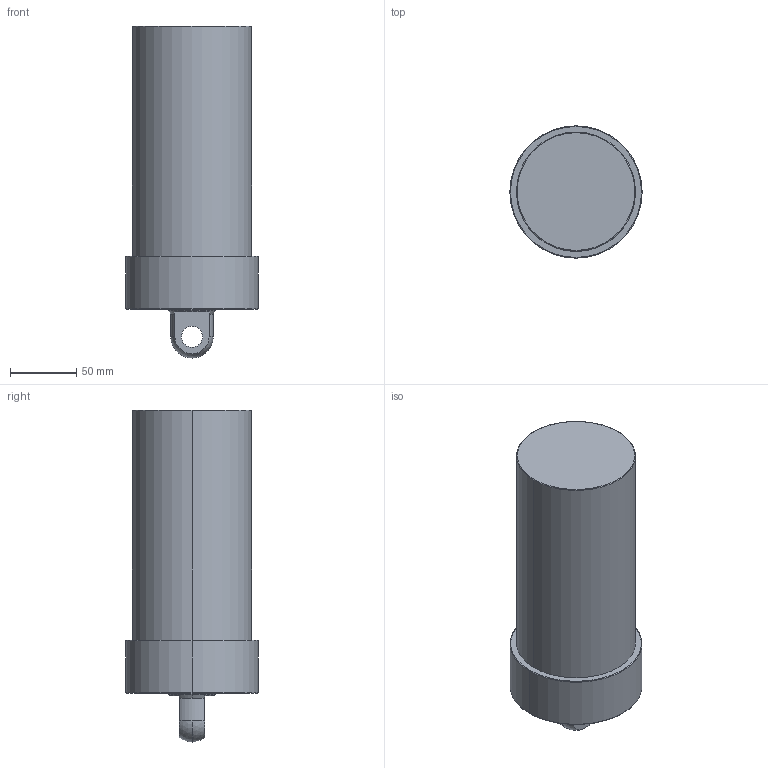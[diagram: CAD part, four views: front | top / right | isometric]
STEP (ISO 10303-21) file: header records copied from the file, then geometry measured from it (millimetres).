
FILE_DESCRIPTION (( 'STEP AP203' ), '1' );
FILE_NAME ('CLLU-090GP-130.STEP', '2020-01-15T01:49:27', ( '' ), ( '' ), 'SwSTEP 2.0', 'SolidWorks 2015', '' );
FILE_SCHEMA (( 'CONFIG_CONTROL_DESIGN' ));
Length unit declared in the file: millimetre
Products named in the file (1): CLLU-090GP-130
Bounding box: 100 x 100 x 251 mm (x, y, z)
Volume: 1430102.3 mm3; surface area: 83652.7 mm2
Topology: 1 solids, 1 shells, 58 faces, 131 edges, 75 vertices
Faces by surface type: cylinder 23, cone 18, plane 9, torus 6, sphere 2
Entity records: 1658 total; most frequent: DIRECTION 311, CARTESIAN_POINT 269, ORIENTED_EDGE 246, AXIS2_PLACEMENT_3D 133, EDGE_CURVE 123, VERTEX_POINT 75, CIRCLE 74, EDGE_LOOP 68
